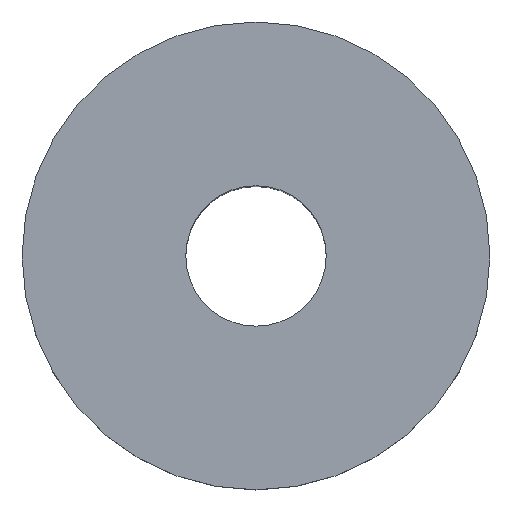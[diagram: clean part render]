
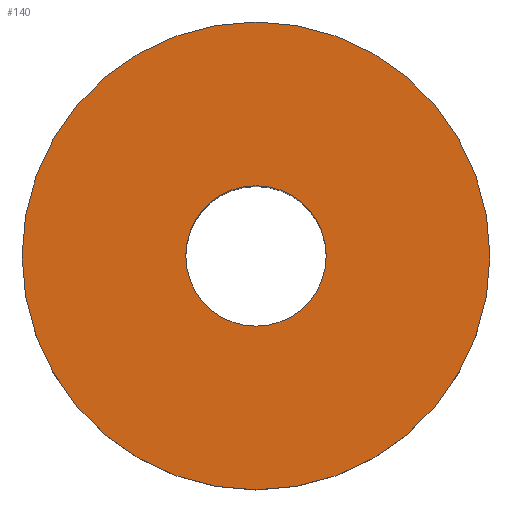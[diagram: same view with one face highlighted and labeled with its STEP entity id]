
A CAD part, top view. The second image highlights one B-rep face of the part: STEP entity #140.
In plain terms, the highlighted planar face has unit normal (0, 0, 1).
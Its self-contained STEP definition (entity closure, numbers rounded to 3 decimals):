
#24 = VERTEX_POINT('',#25);
#25 = CARTESIAN_POINT('',(32.,-20.,50.));
#32 = CYLINDRICAL_SURFACE('',#33,7.);
#33 = AXIS2_PLACEMENT_3D('',#34,#35,#36);
#34 = CARTESIAN_POINT('',(25.,-20.,48.));
#35 = DIRECTION('',(-0.,-0.,-1.));
#36 = DIRECTION('',(1.,0.,0.));
#51 = EDGE_CURVE('',#24,#24,#52,.T.);
#52 = SURFACE_CURVE('',#53,(#58,#65),.PCURVE_S1.);
#53 = CIRCLE('',#54,7.);
#54 = AXIS2_PLACEMENT_3D('',#55,#56,#57);
#55 = CARTESIAN_POINT('',(25.,-20.,50.));
#56 = DIRECTION('',(0.,0.,1.));
#57 = DIRECTION('',(1.,0.,0.));
#58 = PCURVE('',#32,#59);
#59 = DEFINITIONAL_REPRESENTATION('',(#60),#64);
#60 = LINE('',#61,#62);
#61 = CARTESIAN_POINT('',(-0.,-2.));
#62 = VECTOR('',#63,1.);
#63 = DIRECTION('',(-1.,0.));
#64 = ( GEOMETRIC_REPRESENTATION_CONTEXT(2) 
PARAMETRIC_REPRESENTATION_CONTEXT() REPRESENTATION_CONTEXT('2D SPACE',''
  ) );
#65 = PCURVE('',#66,#71);
#66 = PLANE('',#67);
#67 = AXIS2_PLACEMENT_3D('',#68,#69,#70);
#68 = CARTESIAN_POINT('',(25.,-20.,50.));
#69 = DIRECTION('',(0.,0.,1.));
#70 = DIRECTION('',(1.,0.,-0.));
#71 = DEFINITIONAL_REPRESENTATION('',(#72),#76);
#72 = CIRCLE('',#73,7.);
#73 = AXIS2_PLACEMENT_2D('',#74,#75);
#74 = CARTESIAN_POINT('',(0.,0.));
#75 = DIRECTION('',(1.,0.));
#76 = ( GEOMETRIC_REPRESENTATION_CONTEXT(2) 
PARAMETRIC_REPRESENTATION_CONTEXT() REPRESENTATION_CONTEXT('2D SPACE',''
  ) );
#140 = ADVANCED_FACE('',(#141,#144),#66,.T.);
#141 = FACE_BOUND('',#142,.T.);
#142 = EDGE_LOOP('',(#143));
#143 = ORIENTED_EDGE('',*,*,#51,.T.);
#144 = FACE_BOUND('',#145,.T.);
#145 = EDGE_LOOP('',(#146));
#146 = ORIENTED_EDGE('',*,*,#147,.F.);
#147 = EDGE_CURVE('',#148,#148,#150,.T.);
#148 = VERTEX_POINT('',#149);
#149 = CARTESIAN_POINT('',(27.1,-20.,50.));
#150 = SURFACE_CURVE('',#151,(#156,#163),.PCURVE_S1.);
#151 = CIRCLE('',#152,2.1);
#152 = AXIS2_PLACEMENT_3D('',#153,#154,#155);
#153 = CARTESIAN_POINT('',(25.,-20.,50.));
#154 = DIRECTION('',(0.,0.,1.));
#155 = DIRECTION('',(1.,0.,0.));
#156 = PCURVE('',#66,#157);
#157 = DEFINITIONAL_REPRESENTATION('',(#158),#162);
#158 = CIRCLE('',#159,2.1);
#159 = AXIS2_PLACEMENT_2D('',#160,#161);
#160 = CARTESIAN_POINT('',(0.,0.));
#161 = DIRECTION('',(1.,0.));
#162 = ( GEOMETRIC_REPRESENTATION_CONTEXT(2) 
PARAMETRIC_REPRESENTATION_CONTEXT() REPRESENTATION_CONTEXT('2D SPACE',''
  ) );
#163 = PCURVE('',#164,#169);
#164 = CYLINDRICAL_SURFACE('',#165,2.1);
#165 = AXIS2_PLACEMENT_3D('',#166,#167,#168);
#166 = CARTESIAN_POINT('',(25.,-20.,36.));
#167 = DIRECTION('',(-0.,-0.,-1.));
#168 = DIRECTION('',(1.,0.,0.));
#169 = DEFINITIONAL_REPRESENTATION('',(#170),#174);
#170 = LINE('',#171,#172);
#171 = CARTESIAN_POINT('',(-0.,-14.));
#172 = VECTOR('',#173,1.);
#173 = DIRECTION('',(-1.,0.));
#174 = ( GEOMETRIC_REPRESENTATION_CONTEXT(2) 
PARAMETRIC_REPRESENTATION_CONTEXT() REPRESENTATION_CONTEXT('2D SPACE',''
  ) );
